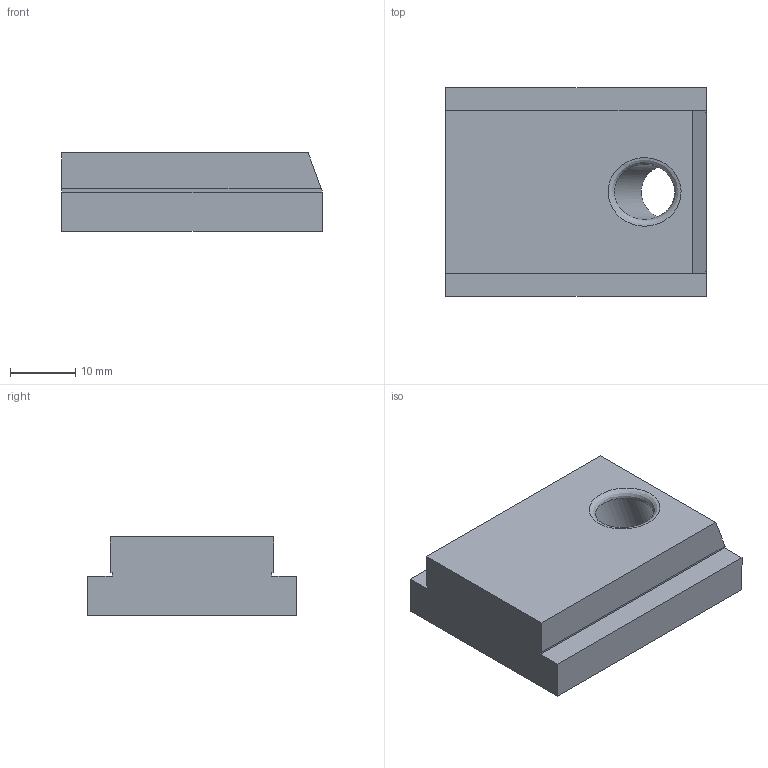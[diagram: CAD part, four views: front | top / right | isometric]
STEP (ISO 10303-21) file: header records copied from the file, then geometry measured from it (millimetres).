
FILE_DESCRIPTION (( 'STEP AP214' ), '1' );
FILE_NAME ('Schieber_-_H12 B25 L40.step', '2024-01-15T11:26:39', ( '' ), ( '' ), 'SwSTEP 2.0', 'SolidWorks 2020', '' );
FILE_SCHEMA (( 'AUTOMOTIVE_DESIGN' ));
Length unit declared in the file: millimetre
Products named in the file (1): Schieber_-_H12 B25 L40
Bounding box: 40 x 32 x 12 mm (x, y, z)
Volume: 12772.7 mm3; surface area: 4402.1 mm2
Topology: 1 solids, 1 shells, 201 faces, 537 edges, 357 vertices
Faces by surface type: plane 121, bspline 79, cylinder 1
Full cylindrical faces by diameter (mm): 8.5 x1
Entity records: 10353 total; most frequent: CARTESIAN_POINT 5851, ORIENTED_EDGE 1070, DIRECTION 622, EDGE_CURVE 535, LINE 376, VECTOR 376, VERTEX_POINT 357, EDGE_LOOP 224
